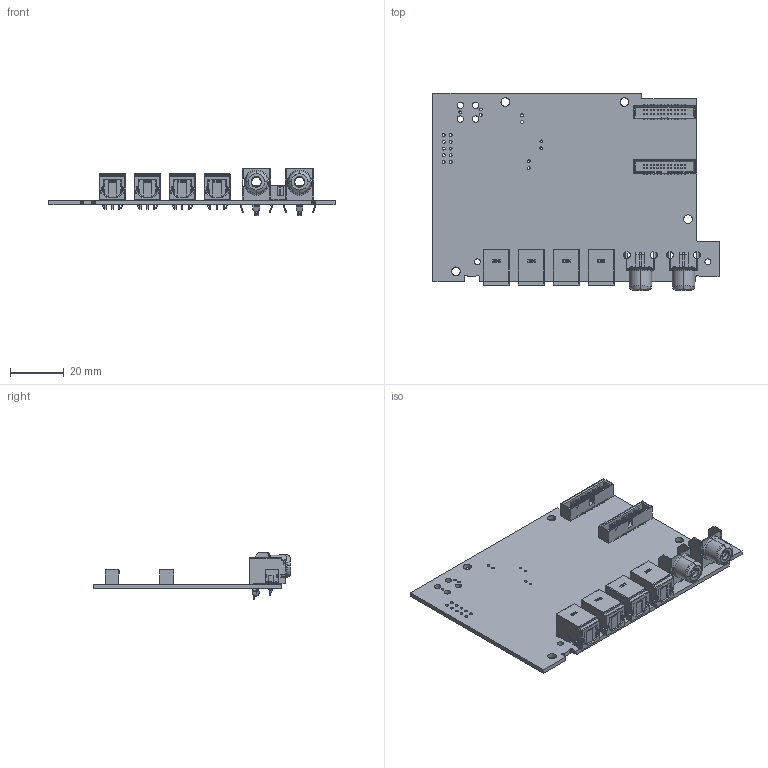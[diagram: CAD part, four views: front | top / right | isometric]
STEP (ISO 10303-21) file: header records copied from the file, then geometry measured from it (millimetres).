
FILE_DESCRIPTION(('FreeCAD Model'),'2;1');
FILE_NAME('Open CASCADE Shape Model','2024-06-14T11:36:49',( 'Dieter Steinwedel'),('hifidom Inh. Dieter Steinwedel'), 'Open CASCADE STEP processor 7.6','FreeCAD','Unknown');
FILE_SCHEMA(('AUTOMOTIVE_DESIGN { 1 0 10303 214 1 1 1 1 }'));
Length unit declared in the file: millimetre
Products named in the file (15): spdif-in; CON_RCA_Black_1; RCA; CON_IDC_1; CON_IDC; CON_SPDIF_RX_1; SPDIF; CON_SPDIF_RX_2; CON_SPDIF_RX_3; CON_SPDIF_RX_4; PCB; CON_RCA_Black_2; RCA001; CON_IDC_2; CON_IDC001
Assembly tree (17 placements, depth 3):
  spdif-in
    CON_RCA_Black_1
      RCA
    CON_IDC_1
      CON_IDC
    CON_SPDIF_RX_1
      SPDIF
    CON_SPDIF_RX_2
      SPDIF
    CON_SPDIF_RX_3
      SPDIF
    CON_SPDIF_RX_4
      SPDIF
    PCB
    CON_RCA_Black_2
      RCA001
    CON_IDC_2
      CON_IDC001
Bounding box: 106 x 73.15 x 17.52 mm (x, y, z)
Volume: 15881.1 mm3; surface area: 23145.6 mm2
Topology: 5 solids, 1117 shells, 3137 faces, 24707 edges, 79482 vertices
Faces by surface type: plane 1464, bspline 1178, cylinder 465, cone 30
Full cylindrical faces by diameter (mm): 0.8 x12, 0.991 x3, 1 x6, 1.1 x10, 1.6 x8, 1.7 x2, 2.2 x2, 2.375 x4, 2.6 x6, 3.2 x4
Entity records: 447843 total; most frequent: CARTESIAN_POINT 155886, DIRECTION 18602, SURFACE_STYLE_USAGE 15645, SURFACE_SIDE_STYLE 15645, SURFACE_STYLE_FILL_AREA 15645, FILL_AREA_STYLE 15645, FILL_AREA_STYLE_COLOUR 15645, PRESENTATION_STYLE_ASSIGNMENT 15642
